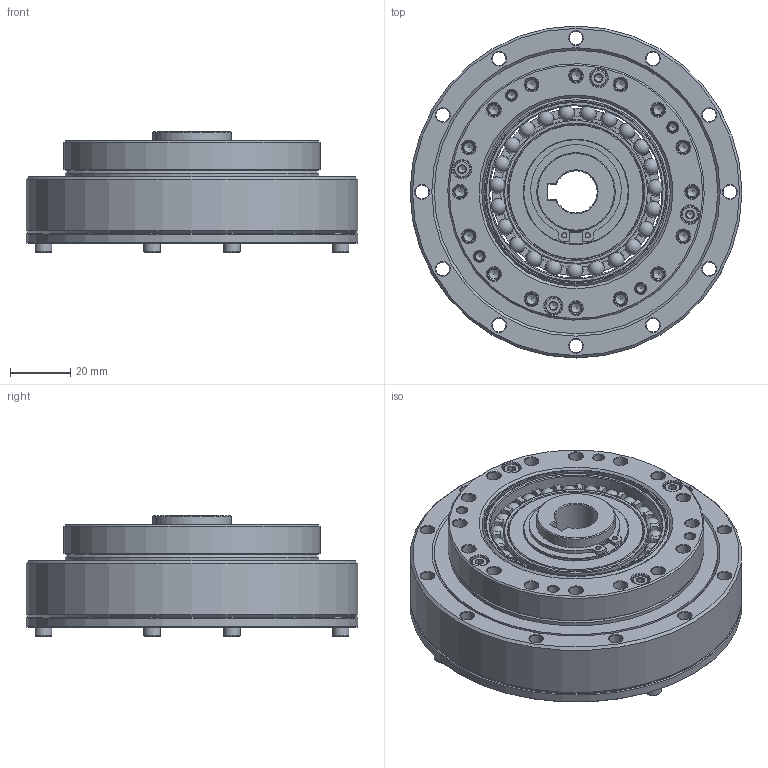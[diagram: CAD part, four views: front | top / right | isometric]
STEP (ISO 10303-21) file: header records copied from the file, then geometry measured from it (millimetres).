
FILE_DESCRIPTION(/* description */ (''),/* implementation_level */ '2;1');
FILE_NAME(/* name */ 'LHG-25-XX-U-II-φ14.stp',/* time_stamp */ '2023-07-08T16:09:45+08:00',/* author */ (''),/* organization */ (''),/* preprocessor_version */ 'ST-DEVELOPER v16.7',/* originating_system */ 'SIEMENS PLM Software NX 12.0',/* authorisation */ '');
FILE_SCHEMA (('AUTOMOTIVE_DESIGN { 1 0 10303 214 3 1 1 1 }'));
Length unit declared in the file: millimetre
Products named in the file (18): EB456009-25KC-46; EB456009-25KE-01; TC-84x94x5; O-68x1; O-90x1.5; GB-T70.1-2000,M3x8; GB-T70.1-2000,M3x12; 铜垫圈26.5x35x1; 轴用弹性挡圈φ26; CSG-25-00-01-K14; CS-25-00-04; CS-25-00-02; CS-25-XX-03; 柔轮LHT-25; 刚轮LHT-25; EB456009-25KE; 交叉轴承LHT-25; LHG-25-XX-U-II-φ14
Assembly tree (23 placements, depth 3):
  LHG-25-XX-U-II-φ14
    交叉轴承LHT-25
      TC-84x94x5
    刚轮LHT-25
    柔轮LHT-25
    EB456009-25KE
      EB456009-25KE-01
      EB456009-25KC-46
    CS-25-XX-03
    CS-25-00-02
    CS-25-00-04
    CSG-25-00-01-K14
    轴用弹性挡圈φ26
    铜垫圈26.5x35x1
    GB-T70.1-2000,M3x12  x4
    GB-T70.1-2000,M3x8  x4
    O-90x1.5
    O-68x1
Bounding box: 110 x 110 x 40 mm (x, y, z)
Volume: 167413.7 mm3; surface area: 117230.7 mm2
Topology: 47 solids, 47 shells, 969 faces, 2326 edges, 1431 vertices
Faces by surface type: plane 323, cone 290, cylinder 236, torus 95, sphere 23, revolution 2
Full cylindrical faces by diameter (mm): 1.733 x2, 2.5 x16, 2.874 x8, 3.3 x16, 3.5 x16, 4.5 x40, 5.5 x8, 6 x4, 24.9 x1, 26 x2, 26.5 x4, 32 x1, 35 x1, 42.8 x1, 44 x1, 45 x2, 47.92 x2, 50 x1, 53 x1, 55.4 x1, 57.17 x2, 60 x2, 60.82 x1, 62.21 x1, 62.46 x1, 66 x1, 67 x2, 68 x1, 70.6 x1, 76 x1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
Entity records: 22991 total; most frequent: CARTESIAN_POINT 5152, DIRECTION 3802, ORIENTED_EDGE 2832, AXIS2_PLACEMENT_3D 1697, EDGE_CURVE 1416, EDGE_LOOP 1344, VERTEX_POINT 1145, FACE_BOUND 1071
